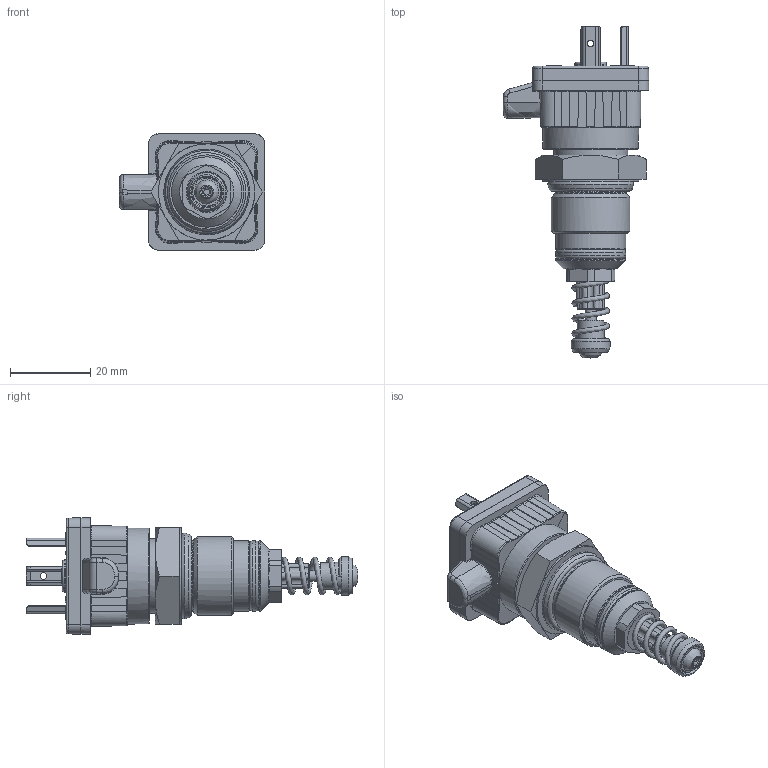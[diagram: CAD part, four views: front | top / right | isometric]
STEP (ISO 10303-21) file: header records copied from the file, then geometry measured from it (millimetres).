
FILE_DESCRIPTION((''),'2;1');
FILE_NAME('U:\Users\r.stiegele\30016200_DG062-01.stp', '2015-07-23T15:40:08',('User'),('SDRC'),'I-DEAS Master Series 9','UNIX', 'Yes');
FILE_SCHEMA(('AUTOMOTIVE_DESIGN { 1 0 10303 214 1 1 1 1 }'));
Length unit declared in the file: millimetre
Products named in the file (1): 30016200_DG062-01
Bounding box: 36.3 x 82.75 x 29 mm (x, y, z)
Volume: 24319.3 mm3; surface area: 8397.9 mm2
Topology: 3 solids, 5 shells, 839 faces, 2337 edges, 1541 vertices
Faces by surface type: bspline 839
Entity records: 36676 total; most frequent: CARTESIAN_POINT 23230, ORIENTED_EDGE 4652, EDGE_CURVE 2326, VERTEX_POINT 1534, B_SPLINE_CURVE_WITH_KNOTS 1362, EDGE_LOOP 890, FACE_OUTER_BOUND 839, ADVANCED_FACE 839
